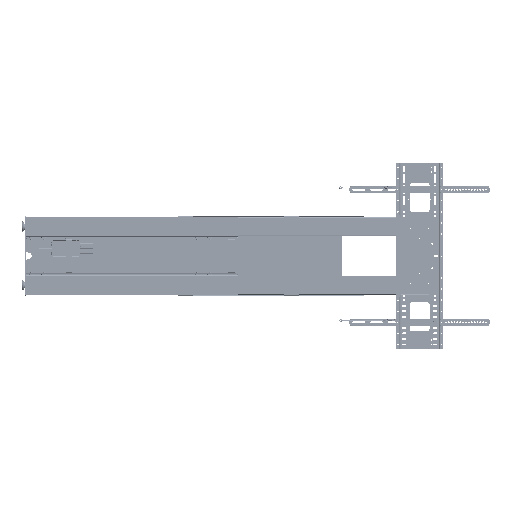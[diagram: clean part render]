
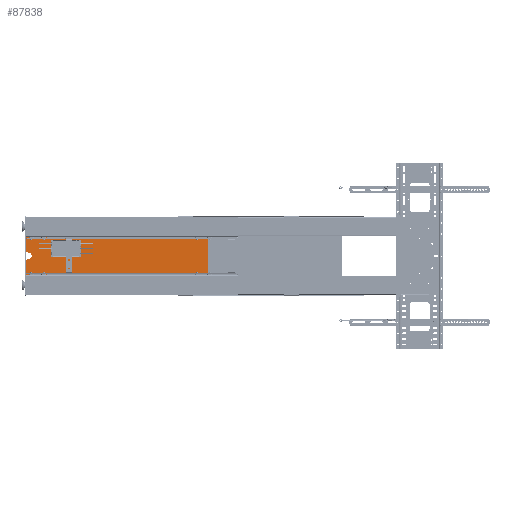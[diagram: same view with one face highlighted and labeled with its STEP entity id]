
A CAD part, top view. The second image highlights one B-rep face of the part: STEP entity #87838.
In plain terms, the highlighted planar face has unit normal (0, 0, 1) as drawn and (0, 1, 0) by its records, which use the part's own axes.
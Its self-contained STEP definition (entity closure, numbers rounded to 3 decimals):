
#85817=DIRECTION('',(-1.,0.,0.));
#85818=VECTOR('',#85817,60.2);
#85819=CARTESIAN_POINT('',(-25.,0.8,410.));
#85820=LINE('',#85819,#85818);
#85821=DIRECTION('',(1.,0.,0.));
#85822=VECTOR('',#85821,170.4);
#85823=CARTESIAN_POINT('',(-85.2,0.8,-410.));
#85824=LINE('',#85823,#85822);
#85825=DIRECTION('',(-1.,0.,0.));
#85826=VECTOR('',#85825,60.2);
#85827=CARTESIAN_POINT('',(85.2,0.8,410.));
#85828=LINE('',#85827,#85826);
#85829=CARTESIAN_POINT('',(25.,0.8,400.));
#85830=DIRECTION('',(0.,-1.,0.));
#85831=DIRECTION('',(0.,0.,1.));
#85832=AXIS2_PLACEMENT_3D('',#85829,#85830,#85831);
#85834=CARTESIAN_POINT('',(0.,0.8,400.));
#85835=DIRECTION('',(0.,1.,0.));
#85836=DIRECTION('',(1.,0.,0.));
#85837=AXIS2_PLACEMENT_3D('',#85834,#85835,#85836);
#85839=CARTESIAN_POINT('',(-25.,0.8,400.));
#85840=DIRECTION('',(0.,-1.,0.));
#85841=DIRECTION('',(1.,0.,0.));
#85842=AXIS2_PLACEMENT_3D('',#85839,#85840,#85841);
#85844=DIRECTION('',(0.,0.,1.));
#85845=VECTOR('',#85844,820.);
#85846=CARTESIAN_POINT('',(-85.2,0.8,-410.));
#85847=LINE('',#85846,#85845);
#85852=DIRECTION('',(0.,0.,-1.));
#85853=VECTOR('',#85852,820.);
#85854=CARTESIAN_POINT('',(85.2,0.8,410.));
#85855=LINE('',#85854,#85853);
#86846=CARTESIAN_POINT('',(-85.2,0.8,410.));
#86847=VERTEX_POINT('',#86846);
#86848=CARTESIAN_POINT('',(-25.,0.8,410.));
#86849=VERTEX_POINT('',#86848);
#86938=CARTESIAN_POINT('',(85.2,0.8,-410.));
#86939=VERTEX_POINT('',#86938);
#86940=CARTESIAN_POINT('',(-85.2,0.8,-410.));
#86941=VERTEX_POINT('',#86940);
#87023=CARTESIAN_POINT('',(25.,0.8,410.));
#87024=VERTEX_POINT('',#87023);
#87025=CARTESIAN_POINT('',(85.2,0.8,410.));
#87026=VERTEX_POINT('',#87025);
#87027=CARTESIAN_POINT('',(15.,0.8,400.));
#87028=VERTEX_POINT('',#87027);
#87029=CARTESIAN_POINT('',(-15.,0.8,400.));
#87030=VERTEX_POINT('',#87029);
#87821=CARTESIAN_POINT('',(0.,0.8,0.));
#87822=DIRECTION('',(0.,1.,0.));
#87823=DIRECTION('',(1.,0.,0.));
#87824=AXIS2_PLACEMENT_3D('',#87821,#87822,#87823);
#87825=PLANE('',#87824);
#87826=ORIENTED_EDGE('',*,*,#87324,.T.);
#87828=ORIENTED_EDGE('',*,*,#87827,.F.);
#87829=ORIENTED_EDGE('',*,*,#87500,.T.);
#87831=ORIENTED_EDGE('',*,*,#87830,.F.);
#87832=ORIENTED_EDGE('',*,*,#87772,.T.);
#87833=ORIENTED_EDGE('',*,*,#87788,.T.);
#87834=ORIENTED_EDGE('',*,*,#87803,.T.);
#87835=ORIENTED_EDGE('',*,*,#87813,.T.);
#87836=EDGE_LOOP('',(#87826,#87828,#87829,#87831,#87832,#87833,#87834,#87835));
#87837=FACE_OUTER_BOUND('',#87836,.F.);
#87838=ADVANCED_FACE('',(#87837),#87825,.T.);
#85833=CIRCLE('',#85832,10.);
#85838=CIRCLE('',#85837,15.);
#85843=CIRCLE('',#85842,10.);
#87324=EDGE_CURVE('',#86849,#86847,#85820,.T.);
#87500=EDGE_CURVE('',#86941,#86939,#85824,.T.);
#87772=EDGE_CURVE('',#87026,#87024,#85828,.T.);
#87788=EDGE_CURVE('',#87024,#87028,#85833,.T.);
#87803=EDGE_CURVE('',#87028,#87030,#85838,.T.);
#87813=EDGE_CURVE('',#87030,#86849,#85843,.T.);
#87827=EDGE_CURVE('',#86941,#86847,#85847,.T.);
#87830=EDGE_CURVE('',#87026,#86939,#85855,.T.);
